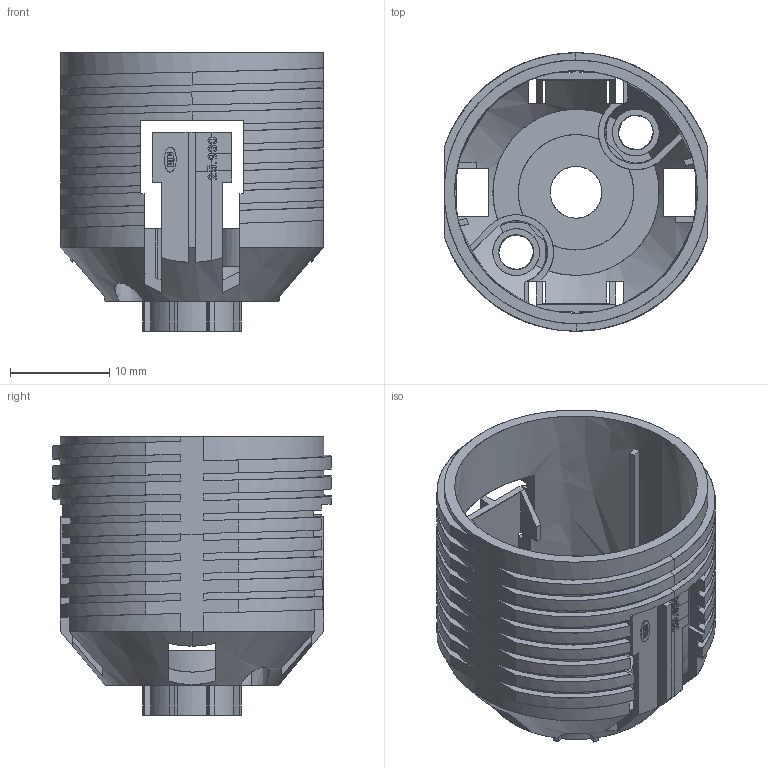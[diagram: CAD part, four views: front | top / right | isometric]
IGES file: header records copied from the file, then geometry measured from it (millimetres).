
Start section: Surface Model. Bezier boundary curves.
Global section: file name: 00WYR05Z01.igs; native system: TRANS-3D by CORETECH International; preprocessor: 2.1; date: 020429.100636; units: millimetre
Bounding box: 26.4 x 28 x 28 mm (x, y, z)
Surface area: 6260.4 mm2 (no closed solid volume)
Topology: 0 solids, 0 shells, 577 faces, 3721 edges, 3721 vertices
Faces by surface type: bspline 577
